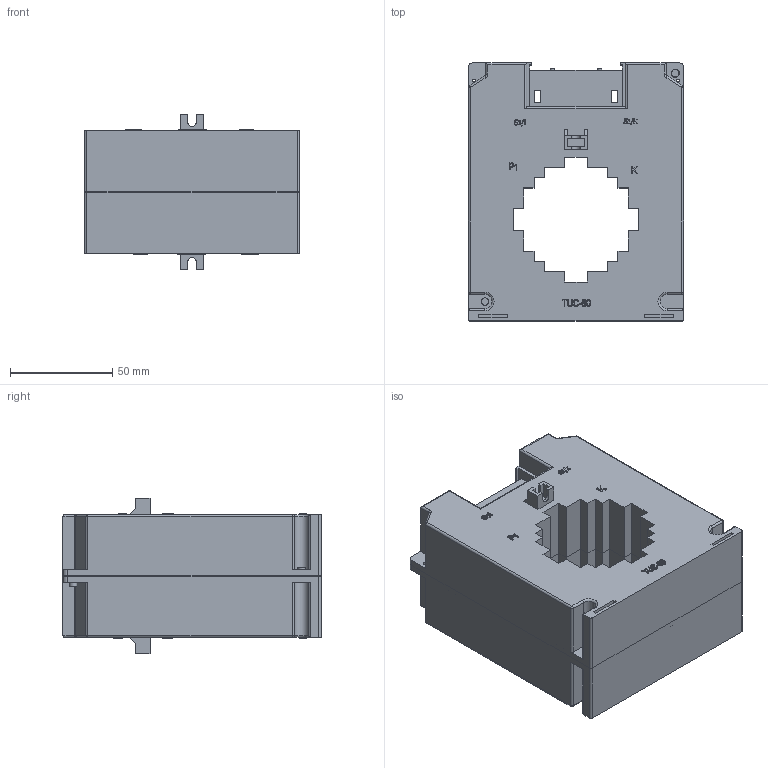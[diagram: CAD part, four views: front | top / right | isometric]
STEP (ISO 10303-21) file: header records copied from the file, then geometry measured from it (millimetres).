
FILE_DESCRIPTION(/* description */ (''),/* implementation_level */ '2;1');
FILE_NAME(/* name */ 'TUC60.step',/* time_stamp */ '2026-07-23T14:39:48+02:00',/* author */ (''),/* organization */ (''),/* preprocessor_version */ 'ST-DEVELOPER v20.1',/* originating_system */ 'Autodesk Translation Framework v15.8.0.0',/* authorisation */ '');
FILE_SCHEMA (('AUTOMOTIVE_DESIGN { 1 0 10303 214 3 1 1 }'));
Length unit declared in the file: millimetre
Products named in the file (1): tuc60
Bounding box: 105 x 126 x 76 mm (x, y, z)
Volume: 132994.9 mm3; surface area: 140787.5 mm2
Topology: 2 solids, 2 shells, 1268 faces, 3510 edges, 2284 vertices
Faces by surface type: plane 939, bspline 189, cylinder 116, sphere 16, torus 8
Full cylindrical faces by diameter (mm): 1.5 x4, 3 x2, 3.6 x4, 4 x2
Entity records: 40889 total; most frequent: CARTESIAN_POINT 9576, ORIENTED_EDGE 7008, DIRECTION 5526, EDGE_CURVE 3504, LINE 2878, VECTOR 2878, VERTEX_POINT 2286, EDGE_LOOP 1350
